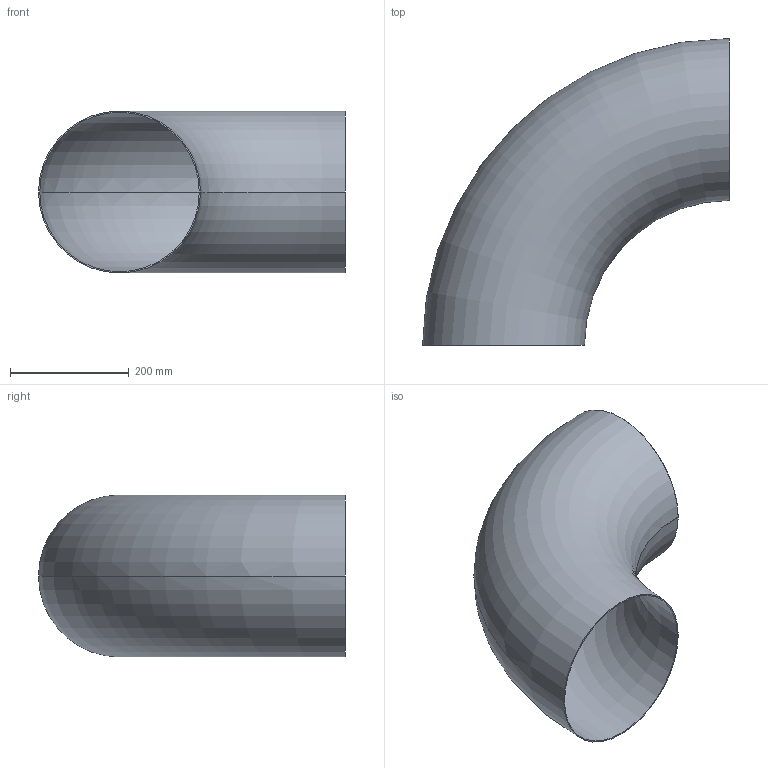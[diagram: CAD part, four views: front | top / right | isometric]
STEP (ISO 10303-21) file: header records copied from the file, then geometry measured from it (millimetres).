
FILE_DESCRIPTION (( 'STEP AP203' ), '1' );
FILE_NAME ('OT200-250-273x2_OSTP.step', '2020-12-16T03:03:14', ( '' ), ( '' ), 'SwSTEP 2.0', 'SolidWorks 2014', '' );
FILE_SCHEMA (( 'CONFIG_CONTROL_DESIGN' ));
Length unit declared in the file: millimetre
Products named in the file (1): OT200-250-273x2_OSTP
Bounding box: 517.5 x 517.5 x 273 mm (x, y, z)
Volume: 1019046.5 mm3; surface area: 1022452 mm2
Topology: 1 solids, 1 shells, 6 faces, 12 edges, 8 vertices
Faces by surface type: torus 4, plane 2
Entity records: 249 total; most frequent: DIRECTION 38, CARTESIAN_POINT 27, ORIENTED_EDGE 24, AXIS2_PLACEMENT_3D 19, CIRCLE 12, EDGE_CURVE 12, EDGE_LOOP 8, PERSON_AND_ORGANIZATION 8
